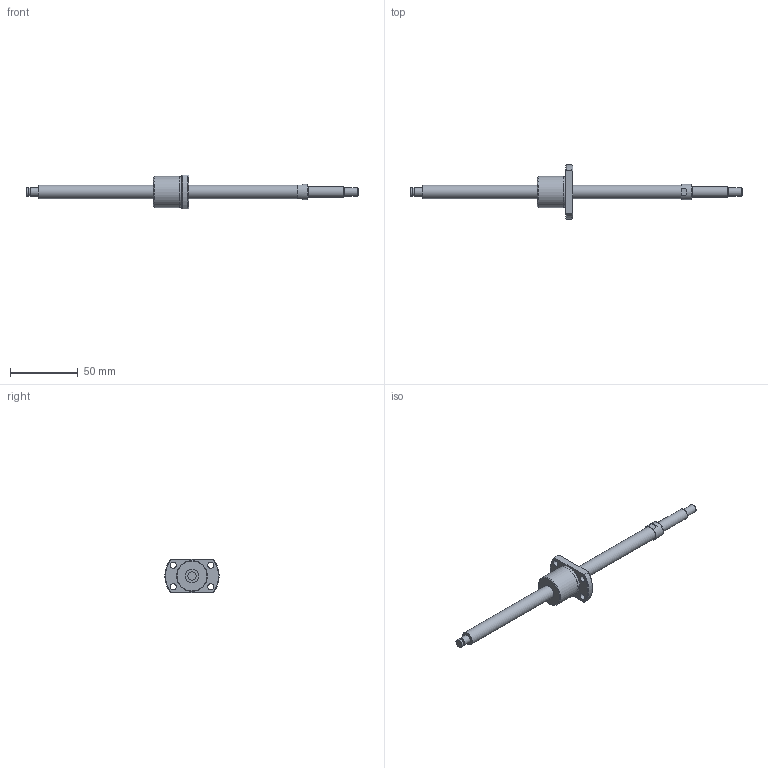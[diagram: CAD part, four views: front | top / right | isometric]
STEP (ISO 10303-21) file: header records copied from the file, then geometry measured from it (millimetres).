
FILE_DESCRIPTION(/* description */ ('STEP AP214'),/* implementation_level */ '2;1');
FILE_NAME(/* name */ 'SRT1005-187R245C7B0X(85Processing)',/* time_stamp */ '2026-08-06T15:09:16+02:00',/* author */ ('License CC BY-ND 4.0'),/* organization */ ('CADENAS'),/* preprocessor_version */ 'ST-DEVELOPER v20',/* originating_system */ 'PARTsolutions',/* authorisation */ ' ');
FILE_SCHEMA (('AUTOMOTIVE_DESIGN {1 0 10303 214 3 1 1}'));
Length unit declared in the file: millimetre
Products named in the file (3): SRT1005-187R245C7B0X(85Processing); SRT1005-187R270BCt7Processing61Shaft; SRT1005Nut
Assembly tree (2 placements, depth 2):
  SRT1005-187R245C7B0X(85Processing)
    SRT1005-187R270BCt7Processing61Shaft
    SRT1005Nut
Bounding box: 245 x 40 x 25 mm (x, y, z)
Volume: 28666.6 mm3; surface area: 12254.1 mm2
Topology: 2 solids, 2 shells, 44 faces, 95 edges, 62 vertices
Faces by surface type: plane 19, cylinder 16, cone 8, torus 1
Full cylindrical faces by diameter (mm): 4.5 x4, 5.7 x1, 6 x3, 8 x1, 10 x2, 11.5 x1, 22.7 x1, 23 x1
Entity records: 1175 total; most frequent: DIRECTION 202, CARTESIAN_POINT 199, ORIENTED_EDGE 142, AXIS2_PLACEMENT_3D 92, EDGE_LOOP 80, FACE_BOUND 80, EDGE_CURVE 71, VERTEX_POINT 57
